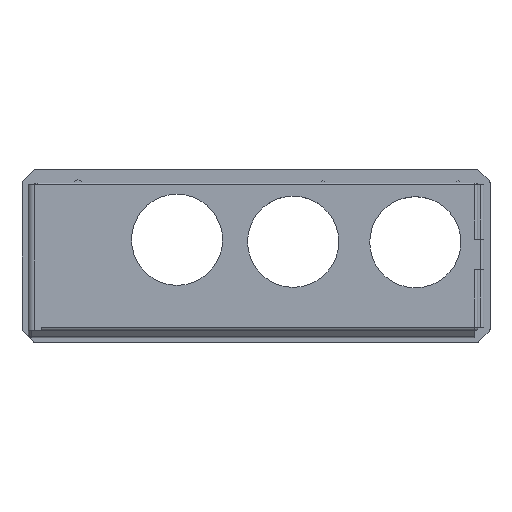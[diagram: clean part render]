
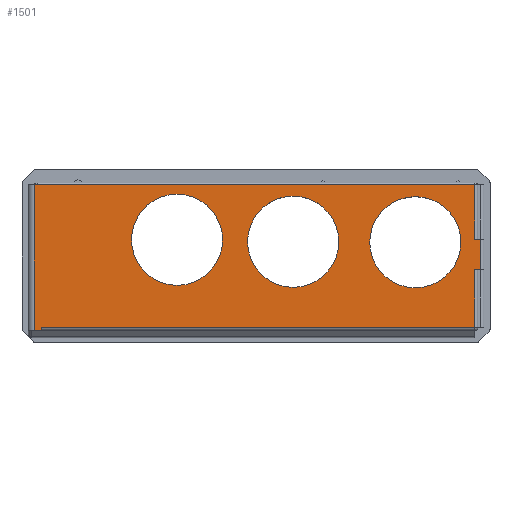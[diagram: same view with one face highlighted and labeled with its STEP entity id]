
A CAD part, top view. The second image highlights one B-rep face of the part: STEP entity #1501.
In plain terms, the highlighted planar face has unit normal (0, 0, 1).
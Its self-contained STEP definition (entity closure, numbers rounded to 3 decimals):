
#16=FACE_BOUND('',#551,.T.);
#17=FACE_BOUND('',#552,.T.);
#18=FACE_BOUND('',#553,.T.);
#49=PLANE('',#1635);
#159=LINE('',#2390,#320);
#180=LINE('',#2440,#341);
#181=LINE('',#2443,#342);
#182=LINE('',#2446,#343);
#183=LINE('',#2448,#344);
#184=LINE('',#2450,#345);
#185=LINE('',#2452,#346);
#186=LINE('',#2454,#347);
#187=LINE('',#2456,#348);
#188=LINE('',#2458,#349);
#189=LINE('',#2459,#350);
#190=LINE('',#2460,#351);
#320=VECTOR('',#1909,10.);
#341=VECTOR('',#1950,10.);
#342=VECTOR('',#1955,10.);
#343=VECTOR('',#1958,10.);
#344=VECTOR('',#1959,10.);
#345=VECTOR('',#1960,10.);
#346=VECTOR('',#1961,10.);
#347=VECTOR('',#1962,10.);
#348=VECTOR('',#1963,10.);
#349=VECTOR('',#1964,10.);
#350=VECTOR('',#1965,10.);
#351=VECTOR('',#1966,10.);
#462=FACE_OUTER_BOUND('',#550,.T.);
#550=EDGE_LOOP('',(#1223,#1224,#1225,#1226,#1227,#1228,#1229,#1230,#1231,
#1232,#1233,#1234));
#551=EDGE_LOOP('',(#1235));
#552=EDGE_LOOP('',(#1236));
#553=EDGE_LOOP('',(#1237));
#619=CIRCLE('',#1589,15.);
#621=CIRCLE('',#1592,15.);
#623=CIRCLE('',#1595,15.);
#665=VERTEX_POINT('',#2174);
#670=VERTEX_POINT('',#2185);
#699=VERTEX_POINT('',#2262);
#701=VERTEX_POINT('',#2268);
#703=VERTEX_POINT('',#2274);
#743=VERTEX_POINT('',#2387);
#744=VERTEX_POINT('',#2389);
#763=VERTEX_POINT('',#2439);
#764=VERTEX_POINT('',#2445);
#765=VERTEX_POINT('',#2447);
#766=VERTEX_POINT('',#2449);
#767=VERTEX_POINT('',#2451);
#768=VERTEX_POINT('',#2453);
#769=VERTEX_POINT('',#2455);
#770=VERTEX_POINT('',#2457);
#845=EDGE_CURVE('',#699,#699,#619,.T.);
#848=EDGE_CURVE('',#701,#701,#621,.T.);
#851=EDGE_CURVE('',#703,#703,#623,.T.);
#907=EDGE_CURVE('',#744,#743,#159,.T.);
#935=EDGE_CURVE('',#744,#763,#180,.T.);
#937=EDGE_CURVE('',#763,#670,#181,.T.);
#938=EDGE_CURVE('',#764,#743,#182,.T.);
#939=EDGE_CURVE('',#765,#764,#183,.T.);
#940=EDGE_CURVE('',#766,#765,#184,.T.);
#941=EDGE_CURVE('',#767,#766,#185,.T.);
#942=EDGE_CURVE('',#767,#768,#186,.T.);
#943=EDGE_CURVE('',#769,#768,#187,.T.);
#944=EDGE_CURVE('',#770,#769,#188,.T.);
#945=EDGE_CURVE('',#665,#770,#189,.T.);
#946=EDGE_CURVE('',#670,#665,#190,.T.);
#1223=ORIENTED_EDGE('',*,*,#935,.F.);
#1224=ORIENTED_EDGE('',*,*,#907,.T.);
#1225=ORIENTED_EDGE('',*,*,#938,.F.);
#1226=ORIENTED_EDGE('',*,*,#939,.F.);
#1227=ORIENTED_EDGE('',*,*,#940,.F.);
#1228=ORIENTED_EDGE('',*,*,#941,.F.);
#1229=ORIENTED_EDGE('',*,*,#942,.T.);
#1230=ORIENTED_EDGE('',*,*,#943,.F.);
#1231=ORIENTED_EDGE('',*,*,#944,.F.);
#1232=ORIENTED_EDGE('',*,*,#945,.F.);
#1233=ORIENTED_EDGE('',*,*,#946,.F.);
#1234=ORIENTED_EDGE('',*,*,#937,.F.);
#1235=ORIENTED_EDGE('',*,*,#845,.T.);
#1236=ORIENTED_EDGE('',*,*,#848,.T.);
#1237=ORIENTED_EDGE('',*,*,#851,.T.);
#1501=ADVANCED_FACE('',(#462,#16,#17,#18),#49,.T.);
#1589=AXIS2_PLACEMENT_3D('',#2264,#1794,#1795);
#1592=AXIS2_PLACEMENT_3D('',#2270,#1801,#1802);
#1595=AXIS2_PLACEMENT_3D('',#2276,#1808,#1809);
#1635=AXIS2_PLACEMENT_3D('',#2444,#1956,#1957);
#1794=DIRECTION('center_axis',(0.,0.,-1.));
#1795=DIRECTION('ref_axis',(-1.,0.,0.));
#1801=DIRECTION('center_axis',(0.,0.,-1.));
#1802=DIRECTION('ref_axis',(-1.,0.,0.));
#1808=DIRECTION('center_axis',(0.,0.,-1.));
#1809=DIRECTION('ref_axis',(-1.,0.,0.));
#1909=DIRECTION('',(1.,0.,0.));
#1950=DIRECTION('',(0.,1.,0.));
#1955=DIRECTION('',(1.,0.,0.));
#1956=DIRECTION('center_axis',(0.,0.,1.));
#1957=DIRECTION('ref_axis',(1.,0.,0.));
#1958=DIRECTION('',(0.,-1.,0.));
#1959=DIRECTION('',(-1.,0.,0.));
#1960=DIRECTION('',(0.,-1.,0.));
#1961=DIRECTION('',(-1.,0.,0.));
#1962=DIRECTION('',(1.,0.,0.));
#1963=DIRECTION('',(0.,-1.,0.));
#1964=DIRECTION('',(1.,0.,0.));
#1965=DIRECTION('',(0.,-1.,0.));
#1966=DIRECTION('',(1.,0.,0.));
#2174=CARTESIAN_POINT('',(145.,48.,7.));
#2185=CARTESIAN_POINT('',(1.,48.,7.));
#2262=CARTESIAN_POINT('',(62.014,29.826,7.));
#2264=CARTESIAN_POINT('Origin',(47.014,29.826,7.));
#2268=CARTESIAN_POINT('',(100.235,29.188,7.));
#2270=CARTESIAN_POINT('Origin',(85.235,29.188,7.));
#2274=CARTESIAN_POINT('',(140.426,29.009,7.));
#2276=CARTESIAN_POINT('Origin',(125.426,29.009,7.));
#2387=CARTESIAN_POINT('',(2.5,0.,7.));
#2389=CARTESIAN_POINT('',(0.,0.,7.));
#2390=CARTESIAN_POINT('',(0.,0.,7.));
#2439=CARTESIAN_POINT('',(0.,48.,7.));
#2440=CARTESIAN_POINT('',(0.,10.,7.));
#2443=CARTESIAN_POINT('',(0.,48.,7.));
#2444=CARTESIAN_POINT('Origin',(0.,0.,7.));
#2445=CARTESIAN_POINT('',(2.5,1.,7.));
#2446=CARTESIAN_POINT('',(2.5,36.75,7.));
#2447=CARTESIAN_POINT('',(145.,1.,7.));
#2448=CARTESIAN_POINT('',(36.5,1.,7.));
#2449=CARTESIAN_POINT('',(145.,20.,7.));
#2450=CARTESIAN_POINT('',(145.,12.25,7.));
#2451=CARTESIAN_POINT('',(146.,20.,7.));
#2452=CARTESIAN_POINT('',(148.,20.,7.));
#2453=CARTESIAN_POINT('',(147.,20.,7.));
#2454=CARTESIAN_POINT('',(146.,20.,7.));
#2455=CARTESIAN_POINT('',(147.,30.,7.));
#2456=CARTESIAN_POINT('',(147.,27.25,7.));
#2457=CARTESIAN_POINT('',(145.,30.,7.));
#2458=CARTESIAN_POINT('',(145.,30.,7.));
#2459=CARTESIAN_POINT('',(145.,12.25,7.));
#2460=CARTESIAN_POINT('',(109.5,48.,7.));
